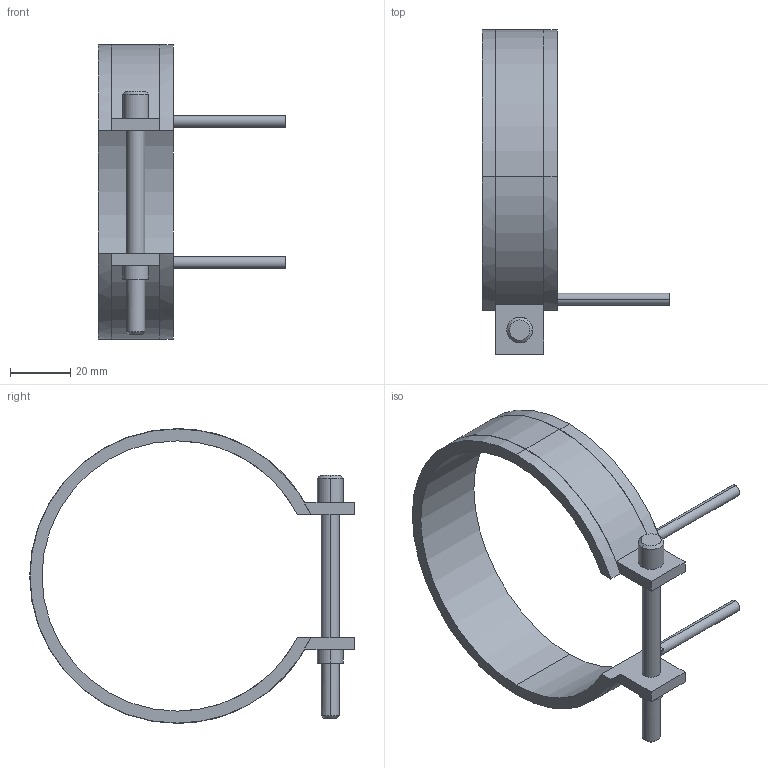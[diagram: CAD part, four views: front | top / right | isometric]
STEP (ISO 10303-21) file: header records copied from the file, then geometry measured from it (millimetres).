
FILE_DESCRIPTION(('CATIA V5 STEP Exchange'),'2;1');
FILE_NAME('C:\Users\Utente\Desktop\IO LAVORO\3D X SITO CF\X SITO\PLASTICA\RF2\14090025.stp','2021-04-06T16:13:07+00:00',('none'),('none'),'CATIA Version 5 Release 20 GA (IN-10)','CATIA V5 STEP AP203','none');
FILE_SCHEMA(('CONFIG_CONTROL_DESIGN'));
Length unit declared in the file: millimetre
Products named in the file (1): 14090025
Bounding box: 62.5 x 108.1 x 98.2 mm (x, y, z)
Volume: 31068.7 mm3; surface area: 18517.3 mm2
Topology: 1 solids, 1 shells, 45 faces, 116 edges, 76 vertices
Faces by surface type: cylinder 24, plane 17, cone 4
Entity records: 1412 total; most frequent: CARTESIAN_POINT 288, ORIENTED_EDGE 232, DIRECTION 195, EDGE_CURVE 116, AXIS2_PLACEMENT_3D 103, VERTEX_POINT 76, CIRCLE 61, VECTOR 52
